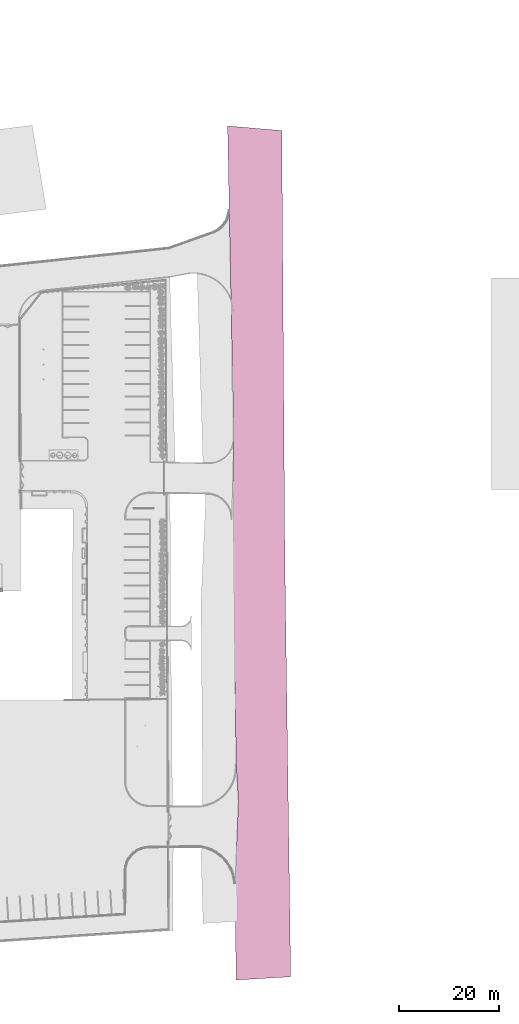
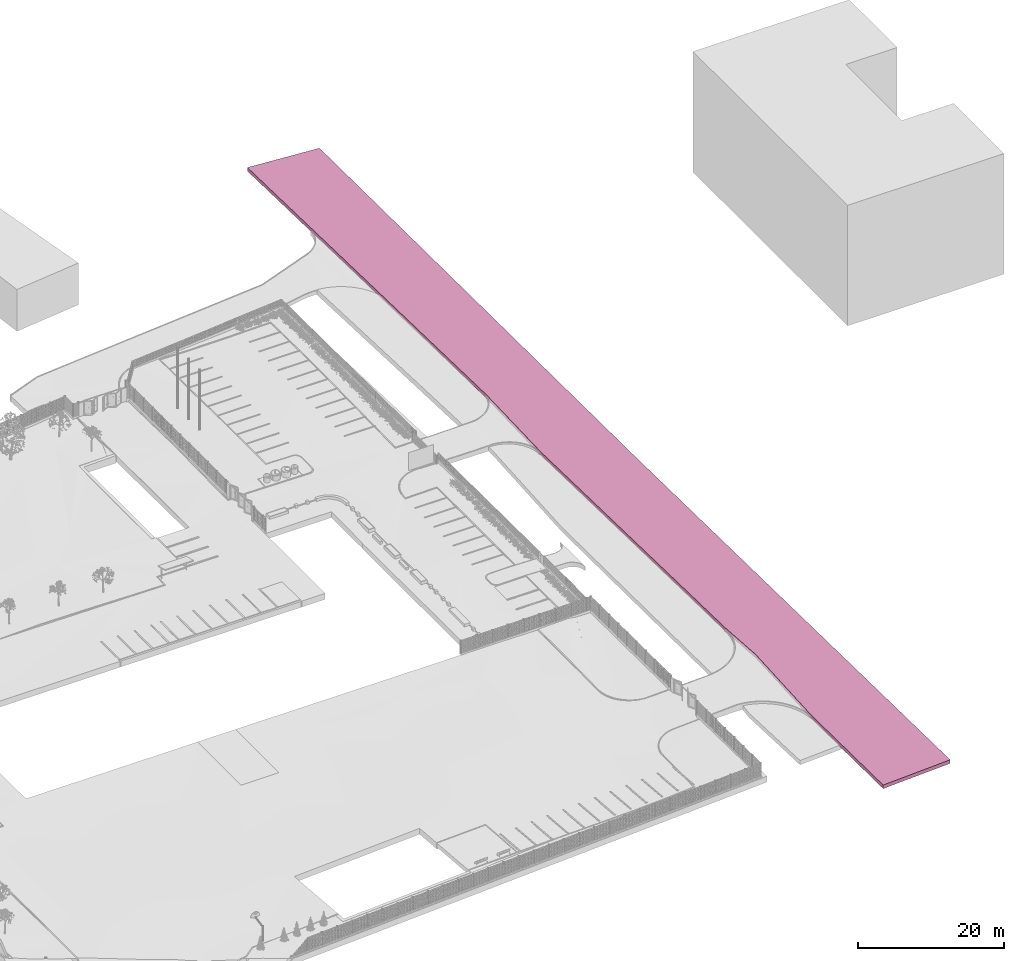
# One storey, part 7 of 1809: 1 furnishing.
"""IFC2X3 building model written with IfcOpenShell, lengths in millimetres."""

from ifc_helpers import new_model, entity, si_unit, converted_unit, derived_unit, money_unit, direction, frame, origin_with_axes, place, context, subcontext, project, spatial, polyline, outline, extrude, material, type_object, element, save


model = new_model("IFC2X3")

# Units and contexts
model_context = context("Model", 3, precision=0.01, world=origin_with_axes(), true_north=direction((0.0, 1.0)))
body_context = subcontext(model_context, "Body", "Model", "MODEL_VIEW")
ifc_project = project(units=[si_unit("LENGTHUNIT", "METRE", prefix="MILLI"), si_unit("AREAUNIT", "SQUARE_METRE"), si_unit("VOLUMEUNIT", "CUBIC_METRE"), converted_unit("PLANEANGLEUNIT", "DEGREE", entity("IfcPlaneAngleMeasure", 0.0174532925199), si_unit("PLANEANGLEUNIT", "RADIAN"), dimensions=[0, 0, 0, 0, 0, 0, 0]), si_unit("SOLIDANGLEUNIT", "STERADIAN"), money_unit("EUR"), converted_unit("TIMEUNIT", "Year", entity("IfcTimeMeasure", 31556926.0), si_unit("TIMEUNIT", "SECOND"), dimensions=[0, 0, 1, 0, 0, 0, 0]), si_unit("MASSUNIT", "GRAM", prefix="KILO"), si_unit("THERMODYNAMICTEMPERATUREUNIT", "DEGREE_CELSIUS"), si_unit("LUMINOUSINTENSITYUNIT", "LUMEN"), si_unit("ENERGYUNIT", "JOULE", prefix="MEGA"), derived_unit("THERMALCONDUCTANCEUNIT", [(si_unit("POWERUNIT", "WATT"), 1), (si_unit("LENGTHUNIT", "METRE"), -1), (si_unit("THERMODYNAMICTEMPERATUREUNIT", "KELVIN"), -1)]), derived_unit("SPECIFICHEATCAPACITYUNIT", [(si_unit("ENERGYUNIT", "JOULE"), 1), (si_unit("MASSUNIT", "GRAM", prefix="KILO"), -1), (si_unit("THERMODYNAMICTEMPERATUREUNIT", "KELVIN"), -1)]), derived_unit("MASSDENSITYUNIT", [(si_unit("MASSUNIT", "GRAM", prefix="KILO"), 1), (si_unit("VOLUMEUNIT", "CUBIC_METRE"), -1)])], contexts=[model_context])

# Site, building, storey
site_placement = place(None, origin_with_axes())
site = spatial("IfcSite", under=ifc_project, at=site_placement, Name="Politse- ja Piirivalveameti ning Päästeameti ühishoone", CompositionType="ELEMENT")
building_placement = place(site_placement, origin_with_axes())
building = spatial("IfcBuilding", under=site, at=building_placement, Name="Politse- ja Piirivalveameti ning Päästeameti ühishoone", CompositionType="ELEMENT")
storey_placement = place(building_placement, origin_with_axes())
storey = spatial("IfcBuildingStorey", under=building, at=storey_placement, Name="Esimene korrus", CompositionType="ELEMENT", Elevation=0.0)

# Furnishing
ifc_material = material(Name="SV-00_GENEERILINE - SISEMINE VOODER")
furniture_type = type_object("IfcFurnitureType", Name="SV-00_GENEERILINE - SISEMINE VOODER 600", AssemblyPlace="NOTDEFINED")
furnishing_placement = place(storey_placement, frame((112168.444712, 114059.978528, -500.0), z_axis=(0.0, 0.0, 1.0), x_axis=(1.0, 0.0, 0.0)))
element("IfcFurnishingElement", 1, at=furnishing_placement, inside=storey, type_object=furniture_type, material=ifc_material, Name="Tumba", context=body_context, shape_type="SweptSolid", body=[
    extrude(outline(polyline([(0.0, 0.0), (-10892.5744783, 925.543347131), (-9659.96870639, -62512.6294395), (-10044.6163098, -78082.5057334), (-9150.52412098, -127520.124501), (-8725.99312197, -134837.183737), (-9389.30027708, -151252.65231), (-9197.27941499, -170691.147495), (1786.53804642, -170051.5627), (622.04380623, -86227.7249889), (0.0, 0.0)])), origin_with_axes(), (0.0, 0.0, 1.0), 600.0),
])

save(model, "model.ifc")
